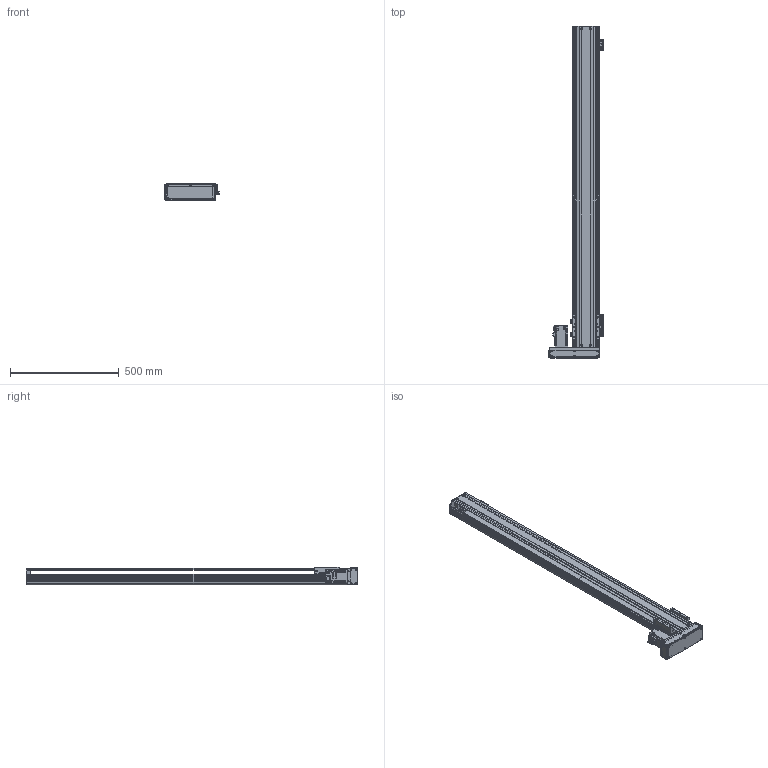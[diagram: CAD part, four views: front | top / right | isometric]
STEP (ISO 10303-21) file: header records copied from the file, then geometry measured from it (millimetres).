
FILE_DESCRIPTION(/* description */ ('MANUFACTURE'),/* implementation_level */ '2;1');
FILE_NAME(/* name */ '\\192.168.0.160\disk1\HAN SHIN Master\B-설계부문\C-표준\B-2024년\BC02-표준도면\+로봇 개선표준도면\표준 승인도 작업 폴더\3D\HG120\HG120병렬\좌병렬\HG120-L40-N-1300-R10.stp',/* time_stamp */ '2024-02-15T08:13:40+09:00',/* author */ ('User'),/* organization */ (''),/* preprocessor_version */ 'ST-DEVELOPER v18.1',/* originating_system */ 'Autodesk Inventor 2022',/* authorisation */ 'LIP');
FILE_SCHEMA (('AUTOMOTIVE_DESIGN { 1 0 10303 214 3 1 1 }'));
Products named in the file (22): HG120-L40-N-0500-R10; HR120 S BASE; HR(HG) 120,130 FRONT BLOCK; HR(HG) 120,130 FRONT BLOCK_1; HR120 FRONT COVER; HG5UPCOV003; HR120 SENSOR DOG; ORP6; hsr_ftht_A-M6F_grease_nipple_joint; NIPPLE CAP(신규); HG120 TABLE-N; HR120 STOPPER; HR120 LR MOTOR PLATE (400W)-사출; MOTOR PLATE - 200W; hg-kr43_; 화살표; HR120 LR BELT COVER; HR160 ACRYL COVER - 1; HR160 ACRYL COVER - 1_1; HR160 ACRYL COVER - 1_2; SENSOR BRK(EE-SX674A); EE_SX674A
Assembly tree (39 placements, depth 2):
  HG120-L40-N-0500-R10
    HR120 S BASE
    HR(HG) 120,130 FRONT BLOCK
    HR(HG) 120,130 FRONT BLOCK_1
    HR120 FRONT COVER
    SENSOR BRK(EE-SX674A)  x3
    HG5UPCOV003
    HR120 SENSOR DOG
    ORP6  x5
    hsr_ftht_A-M6F_grease_nipple_joint  x5
    NIPPLE CAP(신규)  x5
    HG120 TABLE-N
    EE_SX674A  x3
    HR120 STOPPER
    HR120 LR MOTOR PLATE (400W)-사출
    MOTOR PLATE - 200W
    hg-kr43_
    화살표  x2
    HR120 LR BELT COVER
    HR160 ACRYL COVER - 1
    HR160 ACRYL COVER - 1_1
    HR160 ACRYL COVER - 1_2  x2
Bounding box: 250 x 1523 x 80 mm (x, y, z)
Volume: 3972809.6 mm3; surface area: 1613405.7 mm2
Topology: 39 solids, 39 shells, 3535 faces, 10071 edges, 6645 vertices
Faces by surface type: plane 2395, cylinder 818, cone 227, sphere 40, torus 35, bspline 20
Full cylindrical faces by diameter (mm): 2.459 x50, 3 x4, 3.242 x48, 3.4 x20, 3.5 x6, 4.134 x42, 4.5 x56, 4.917 x6, 5 x26, 5.5 x31, 5.6 x5, 5.8 x4, 5.9 x8, 6 x9, 6.5 x10, 6.6 x2, 7 x4, 7.5 x16, 8 x4, 9 x6, 9.5 x19, 14 x1, 17 x1, 20 x1, 22 x1, 24 x1, 28 x1, 32 x2, 33.7 x1, 50 x2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
Entity records: 101136 total; most frequent: CARTESIAN_POINT 20425, ORIENTED_EDGE 16838, DIRECTION 15692, EDGE_CURVE 8419, LINE 6604, VECTOR 6604, VERTEX_POINT 5625, AXIS2_PLACEMENT_3D 4544
